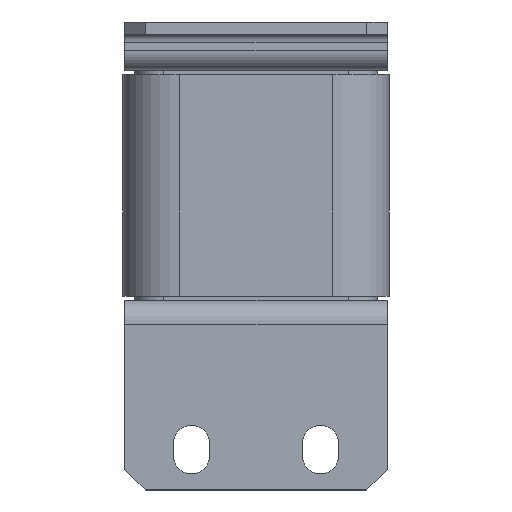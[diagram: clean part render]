
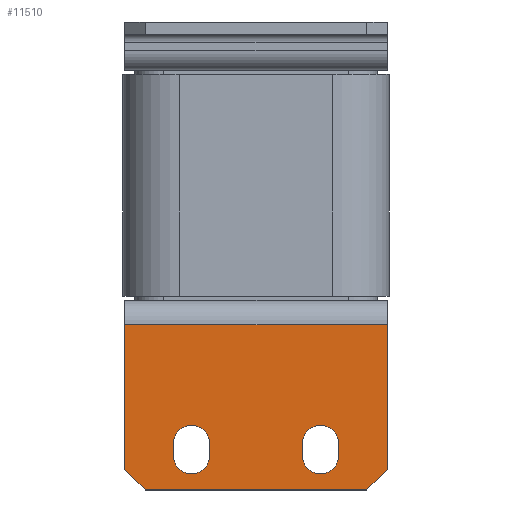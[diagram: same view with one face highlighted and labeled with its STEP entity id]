
A CAD part, front view. The second image highlights one B-rep face of the part: STEP entity #11510.
In plain terms, the highlighted planar face has unit normal (0, -1, 0).
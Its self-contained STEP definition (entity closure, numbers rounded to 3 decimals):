
#169 = VERTEX_POINT ( 'NONE', #11673 ) ;
#201 = EDGE_CURVE ( 'NONE', #12205, #169, #3703, .T. ) ;
#421 = EDGE_CURVE ( 'NONE', #5530, #15430, #7055, .T. ) ;
#524 = CARTESIAN_POINT ( 'NONE',  ( -13.868, -16.503, -94.5 ) ) ;
#733 = LINE ( 'NONE', #6763, #7837 ) ;
#845 = CARTESIAN_POINT ( 'NONE',  ( -41.368, -16.503, -94.5 ) ) ;
#858 = AXIS2_PLACEMENT_3D ( 'NONE', #9440, #15450, #8258 ) ;
#938 = DIRECTION ( 'NONE',  ( 0., 0., -1. ) ) ;
#1049 = DIRECTION ( 'NONE',  ( 1., 0., 0. ) ) ;
#1096 = CARTESIAN_POINT ( 'NONE',  ( -57.368, -16.503, -103. ) ) ;
#1199 = VECTOR ( 'NONE', #1395, 1000. ) ;
#1395 = DIRECTION ( 'NONE',  ( 0.707, 0., -0.707 ) ) ;
#1490 = CARTESIAN_POINT ( 'NONE',  ( -50.368, -16.503, -94.5 ) ) ;
#1774 = LINE ( 'NONE', #12705, #11469 ) ;
#1864 = ORIENTED_EDGE ( 'NONE', *, *, #6099, .T. ) ;
#2187 = DIRECTION ( 'NONE',  ( 0., -1., 0. ) ) ;
#2238 = AXIS2_PLACEMENT_3D ( 'NONE', #12920, #14128, #11763 ) ;
#2405 = ORIENTED_EDGE ( 'NONE', *, *, #421, .F. ) ;
#2425 = CIRCLE ( 'NONE', #2987, 4.5 ) ;
#2511 = CARTESIAN_POINT ( 'NONE',  ( -9.368, -16.503, -91.5 ) ) ;
#2531 = LINE ( 'NONE', #11657, #14903 ) ;
#2619 = DIRECTION ( 'NONE',  ( 0., -1., 0. ) ) ;
#2705 = DIRECTION ( 'NONE',  ( 0., 0., -1. ) ) ;
#2713 = CARTESIAN_POINT ( 'NONE',  ( -2.368, -16.503, -103. ) ) ;
#2891 = FACE_BOUND ( 'NONE', #9785, .T. ) ;
#2987 = AXIS2_PLACEMENT_3D ( 'NONE', #524, #13638, #7518 ) ;
#3020 = EDGE_CURVE ( 'NONE', #13957, #10135, #7967, .T. ) ;
#3510 = EDGE_CURVE ( 'NONE', #12205, #10343, #1774, .T. ) ;
#3703 = LINE ( 'NONE', #10454, #11384 ) ;
#3709 = VERTEX_POINT ( 'NONE', #11888 ) ;
#3745 = ORIENTED_EDGE ( 'NONE', *, *, #3510, .T. ) ;
#3822 = DIRECTION ( 'NONE',  ( 0., 0., 1. ) ) ;
#3907 = CIRCLE ( 'NONE', #14543, 4.5 ) ;
#4645 = PLANE ( 'NONE',  #2238 ) ;
#4821 = CARTESIAN_POINT ( 'NONE',  ( -45.868, -16.503, -99. ) ) ;
#4930 = DIRECTION ( 'NONE',  ( 0., 0., -1. ) ) ;
#4988 = DIRECTION ( 'NONE',  ( 1., 0., 0. ) ) ;
#5404 = EDGE_CURVE ( 'NONE', #6940, #9538, #11759, .T. ) ;
#5455 = VERTEX_POINT ( 'NONE', #11774 ) ;
#5530 = VERTEX_POINT ( 'NONE', #2511 ) ;
#5814 = DIRECTION ( 'NONE',  ( 0., 0., 1. ) ) ;
#5829 = CIRCLE ( 'NONE', #11558, 4.5 ) ;
#5837 = ORIENTED_EDGE ( 'NONE', *, *, #9368, .F. ) ;
#6010 = VECTOR ( 'NONE', #7626, 1000. ) ;
#6099 = EDGE_CURVE ( 'NONE', #5455, #169, #14155, .T. ) ;
#6622 = ORIENTED_EDGE ( 'NONE', *, *, #3020, .F. ) ;
#6647 = CARTESIAN_POINT ( 'NONE',  ( -62.368, -16.503, -98. ) ) ;
#6719 = DIRECTION ( 'NONE',  ( 0., 0., 1. ) ) ;
#6720 = EDGE_LOOP ( 'NONE', ( #6622, #10756, #2405, #8470, #7553 ) ) ;
#6763 = CARTESIAN_POINT ( 'NONE',  ( -9.368, -16.503, -94.5 ) ) ;
#6796 = VERTEX_POINT ( 'NONE', #845 ) ;
#6819 = ORIENTED_EDGE ( 'NONE', *, *, #9037, .T. ) ;
#6940 = VERTEX_POINT ( 'NONE', #1490 ) ;
#6994 = LINE ( 'NONE', #2713, #11303 ) ;
#6996 = EDGE_CURVE ( 'NONE', #15430, #13957, #9399, .T. ) ;
#7055 = CIRCLE ( 'NONE', #14595, 4.5 ) ;
#7215 = VERTEX_POINT ( 'NONE', #11197 ) ;
#7284 = DIRECTION ( 'NONE',  ( 0., -1., 0. ) ) ;
#7327 = ORIENTED_EDGE ( 'NONE', *, *, #8729, .F. ) ;
#7518 = DIRECTION ( 'NONE',  ( 0., 0., -1. ) ) ;
#7553 = ORIENTED_EDGE ( 'NONE', *, *, #15522, .F. ) ;
#7626 = DIRECTION ( 'NONE',  ( 0.707, 0., 0.707 ) ) ;
#7763 = DIRECTION ( 'NONE',  ( 0., 0., 1. ) ) ;
#7837 = VECTOR ( 'NONE', #6719, 1000. ) ;
#7898 = VERTEX_POINT ( 'NONE', #8190 ) ;
#7967 = CIRCLE ( 'NONE', #10793, 4.5 ) ;
#8190 = CARTESIAN_POINT ( 'NONE',  ( -41.368, -16.503, -91.5 ) ) ;
#8258 = DIRECTION ( 'NONE',  ( 0., 0., 1. ) ) ;
#8470 = ORIENTED_EDGE ( 'NONE', *, *, #12361, .F. ) ;
#8656 = CARTESIAN_POINT ( 'NONE',  ( -13.868, -16.503, -91.5 ) ) ;
#8729 = EDGE_CURVE ( 'NONE', #7215, #6940, #2531, .T. ) ;
#9037 = EDGE_CURVE ( 'NONE', #13491, #10522, #6994, .T. ) ;
#9368 = EDGE_CURVE ( 'NONE', #6796, #7898, #13881, .T. ) ;
#9399 = LINE ( 'NONE', #13359, #15386 ) ;
#9440 = CARTESIAN_POINT ( 'NONE',  ( -45.868, -16.503, -94.5 ) ) ;
#9459 = LINE ( 'NONE', #1096, #1199 ) ;
#9538 = VERTEX_POINT ( 'NONE', #4821 ) ;
#9785 = EDGE_LOOP ( 'NONE', ( #10898, #7327, #11273, #5837, #11482 ) ) ;
#9945 = EDGE_CURVE ( 'NONE', #7898, #7215, #3907, .T. ) ;
#10135 = VERTEX_POINT ( 'NONE', #12297 ) ;
#10343 = VERTEX_POINT ( 'NONE', #6647 ) ;
#10454 = CARTESIAN_POINT ( 'NONE',  ( -62.368, -16.503, -62. ) ) ;
#10522 = VERTEX_POINT ( 'NONE', #13119 ) ;
#10756 = ORIENTED_EDGE ( 'NONE', *, *, #6996, .F. ) ;
#10793 = AXIS2_PLACEMENT_3D ( 'NONE', #15169, #2187, #15323 ) ;
#10898 = ORIENTED_EDGE ( 'NONE', *, *, #5404, .F. ) ;
#10972 = CARTESIAN_POINT ( 'NONE',  ( -45.868, -16.503, -91.5 ) ) ;
#11102 = FACE_OUTER_BOUND ( 'NONE', #14134, .T. ) ;
#11134 = VECTOR ( 'NONE', #7763, 1000. ) ;
#11197 = CARTESIAN_POINT ( 'NONE',  ( -50.368, -16.503, -91.5 ) ) ;
#11273 = ORIENTED_EDGE ( 'NONE', *, *, #9945, .F. ) ;
#11303 = VECTOR ( 'NONE', #4988, 1000. ) ;
#11384 = VECTOR ( 'NONE', #1049, 1000. ) ;
#11469 = VECTOR ( 'NONE', #13945, 1000. ) ;
#11482 = ORIENTED_EDGE ( 'NONE', *, *, #14308, .F. ) ;
#11483 = FACE_BOUND ( 'NONE', #6720, .T. ) ;
#11510 = ADVANCED_FACE ( 'NONE', ( #11483, #2891, #11102 ), #4645, .F. ) ;
#11558 = AXIS2_PLACEMENT_3D ( 'NONE', #12088, #15475, #11898 ) ;
#11657 = CARTESIAN_POINT ( 'NONE',  ( -50.368, -16.503, -94.5 ) ) ;
#11673 = CARTESIAN_POINT ( 'NONE',  ( 2.632, -16.503, -62. ) ) ;
#11715 = EDGE_CURVE ( 'NONE', #10522, #5455, #12963, .T. ) ;
#11759 = CIRCLE ( 'NONE', #858, 4.5 ) ;
#11763 = DIRECTION ( 'NONE',  ( 0., 0., -1. ) ) ;
#11774 = CARTESIAN_POINT ( 'NONE',  ( 2.632, -16.503, -98. ) ) ;
#11888 = CARTESIAN_POINT ( 'NONE',  ( -9.368, -16.503, -94.5 ) ) ;
#11898 = DIRECTION ( 'NONE',  ( 0., 0., 1. ) ) ;
#12062 = CARTESIAN_POINT ( 'NONE',  ( -18.368, -16.503, -94.5 ) ) ;
#12088 = CARTESIAN_POINT ( 'NONE',  ( -45.868, -16.503, -94.5 ) ) ;
#12205 = VERTEX_POINT ( 'NONE', #14892 ) ;
#12297 = CARTESIAN_POINT ( 'NONE',  ( -13.868, -16.503, -99. ) ) ;
#12361 = EDGE_CURVE ( 'NONE', #3709, #5530, #733, .T. ) ;
#12705 = CARTESIAN_POINT ( 'NONE',  ( -62.368, -16.503, -98. ) ) ;
#12901 = CARTESIAN_POINT ( 'NONE',  ( -41.368, -16.503, -94.5 ) ) ;
#12920 = CARTESIAN_POINT ( 'NONE',  ( -62.368, -16.503, -59. ) ) ;
#12963 = LINE ( 'NONE', #14743, #6010 ) ;
#13119 = CARTESIAN_POINT ( 'NONE',  ( -2.368, -16.503, -103. ) ) ;
#13146 = ORIENTED_EDGE ( 'NONE', *, *, #13837, .T. ) ;
#13359 = CARTESIAN_POINT ( 'NONE',  ( -18.368, -16.503, -94.5 ) ) ;
#13491 = VERTEX_POINT ( 'NONE', #15066 ) ;
#13556 = ORIENTED_EDGE ( 'NONE', *, *, #11715, .T. ) ;
#13608 = CARTESIAN_POINT ( 'NONE',  ( 2.632, -16.503, -59. ) ) ;
#13638 = DIRECTION ( 'NONE',  ( 0., -1., 0. ) ) ;
#13837 = EDGE_CURVE ( 'NONE', #10343, #13491, #9459, .T. ) ;
#13881 = LINE ( 'NONE', #12901, #15383 ) ;
#13945 = DIRECTION ( 'NONE',  ( 0., 0., -1. ) ) ;
#13957 = VERTEX_POINT ( 'NONE', #12062 ) ;
#14128 = DIRECTION ( 'NONE',  ( 0., 1., 0. ) ) ;
#14134 = EDGE_LOOP ( 'NONE', ( #15074, #3745, #13146, #6819, #13556, #1864 ) ) ;
#14155 = LINE ( 'NONE', #13608, #11134 ) ;
#14282 = CARTESIAN_POINT ( 'NONE',  ( -18.368, -16.503, -91.5 ) ) ;
#14308 = EDGE_CURVE ( 'NONE', #9538, #6796, #5829, .T. ) ;
#14543 = AXIS2_PLACEMENT_3D ( 'NONE', #10972, #2619, #3822 ) ;
#14595 = AXIS2_PLACEMENT_3D ( 'NONE', #8656, #7284, #4930 ) ;
#14743 = CARTESIAN_POINT ( 'NONE',  ( -2.368, -16.503, -103. ) ) ;
#14892 = CARTESIAN_POINT ( 'NONE',  ( -62.368, -16.503, -62. ) ) ;
#14903 = VECTOR ( 'NONE', #938, 1000. ) ;
#15066 = CARTESIAN_POINT ( 'NONE',  ( -57.368, -16.503, -103. ) ) ;
#15074 = ORIENTED_EDGE ( 'NONE', *, *, #201, .F. ) ;
#15169 = CARTESIAN_POINT ( 'NONE',  ( -13.868, -16.503, -94.5 ) ) ;
#15323 = DIRECTION ( 'NONE',  ( 0., 0., -1. ) ) ;
#15383 = VECTOR ( 'NONE', #5814, 1000. ) ;
#15386 = VECTOR ( 'NONE', #2705, 1000. ) ;
#15430 = VERTEX_POINT ( 'NONE', #14282 ) ;
#15450 = DIRECTION ( 'NONE',  ( 0., -1., 0. ) ) ;
#15475 = DIRECTION ( 'NONE',  ( 0., -1., 0. ) ) ;
#15522 = EDGE_CURVE ( 'NONE', #10135, #3709, #2425, .T. ) ;
